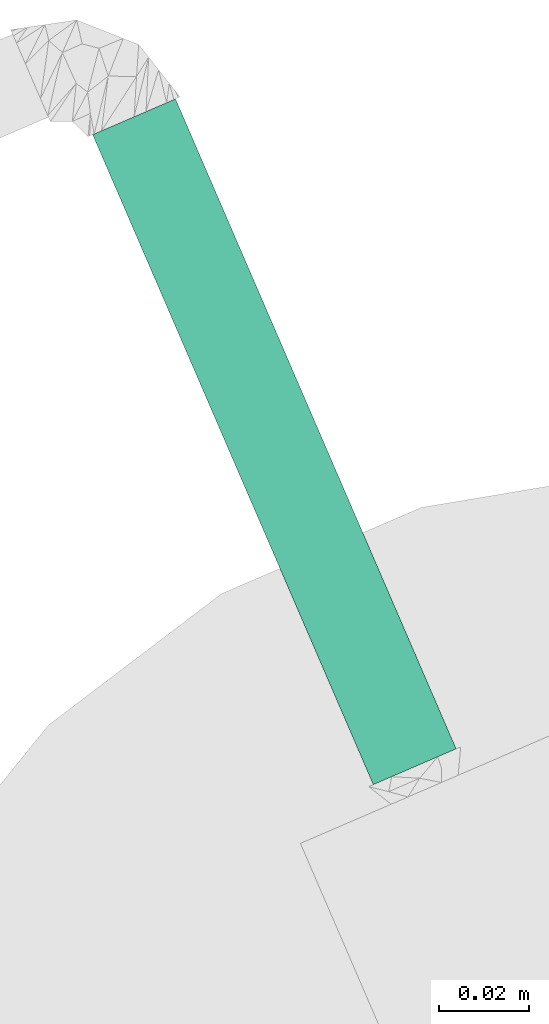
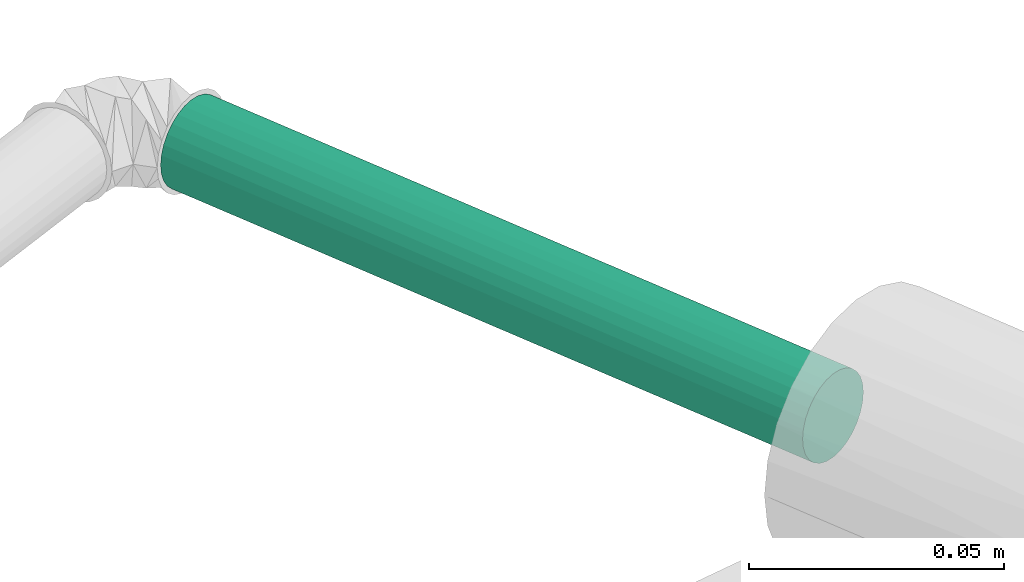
# One storey, part 17 of 26: 1 pipe segment.
"""IFC4 building model written with IfcOpenShell, lengths in metres."""

from ifc_helpers import new_model, entity, si_unit, converted_unit, derived_unit, direction, frame, origin, place, context, subcontext, project, spatial, arc, indexed_curve, outline, extrude, material, type_object, element, save


model = new_model("IFC4")

# Units and contexts
model_context = context("Model", 3, precision=1e-05, world=origin(), true_north=direction((6.12323399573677e-17, 1.0)))
body_context = subcontext(model_context, "Body", "Model", "MODEL_VIEW")
ifc_project = project(units=[si_unit("LENGTHUNIT", "METRE"), si_unit("AREAUNIT", "SQUARE_METRE"), si_unit("VOLUMEUNIT", "CUBIC_METRE"), si_unit("PRESSUREUNIT", "PASCAL"), derived_unit("VOLUMETRICFLOWRATEUNIT", [(si_unit("LENGTHUNIT", "METRE", prefix="DECI"), 3), (si_unit("TIMEUNIT", "SECOND"), -1)]), converted_unit("PLANEANGLEUNIT", "DEGREE", entity("IfcPlaneAngleMeasure", 0.0174532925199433), si_unit("PLANEANGLEUNIT", "RADIAN"), dimensions=[0, 0, 0, 0, 0, 0, 0])], contexts=[model_context])

# Site, building, storey
site_placement = place(None, origin())
site = spatial("IfcSite", under=ifc_project, at=site_placement, Name="Default", CompositionType="ELEMENT")
building_placement = place(site_placement, frame((24.575451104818, -55.896759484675, 317.15), z_axis=(0.0, 0.0, 1.0), x_axis=(-0.396377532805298, 0.918087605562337, 0.0)))
building = spatial("IfcBuilding", under=site, at=building_placement, CompositionType="ELEMENT")
storey_placement = place(building_placement, origin())
storey = spatial("IfcBuildingStorey", under=building, at=storey_placement, Name="Nivel 1", CompositionType="ELEMENT", Elevation=0.0)

# Pipe segment
ifc_material = material(Name="Cobre", Category="Undefined")
pipe_segment_type = type_object("IfcPipeSegmentType", Name="Pipe Types:GAS", PredefinedType="NOTDEFINED")
pipe_segment_placement = place(storey_placement, origin())
element("IfcPipeSegment", 1, at=pipe_segment_placement, inside=storey, type_object=pipe_segment_type, material=ifc_material, Name="Pipe Types:GAS", ObjectType="Pipe Types:GAS", PredefinedType="NOTDEFINED", context=body_context, shape_type="SweptSolid", body=[
    extrude(outline(indexed_curve([(0.00999999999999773, 0.0), (0.00707106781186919, 0.00707106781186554), (0.0, 0.01), (-0.00707106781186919, 0.00707106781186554), (-0.00999999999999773, 0.0), (-0.00707106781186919, -0.0070710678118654), (0.0, -0.01), (0.00707106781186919, -0.00707106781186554)], segments=[arc(1, 2, 3), arc(3, 4, 5), arc(5, 6, 7), arc(7, 8, 1)], self_intersect=False)), frame((34.7942708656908, 39.2338766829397, 0.855500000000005), z_axis=(1.0, 0.0, 0.0), x_axis=(0.0, -1.0, 0.0)), (0.0, 0.0, 1.0), 0.156981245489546),
])

save(model, "model.ifc")
